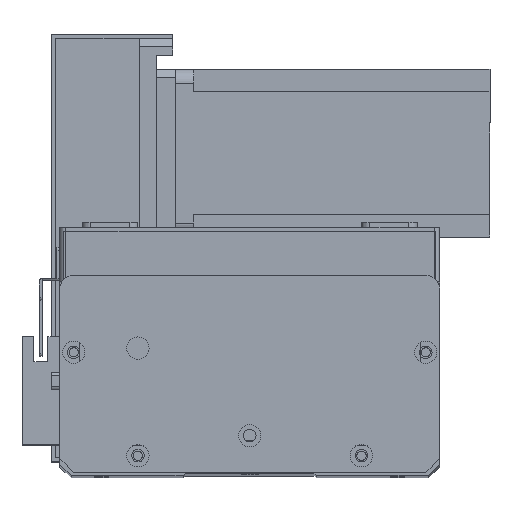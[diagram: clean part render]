
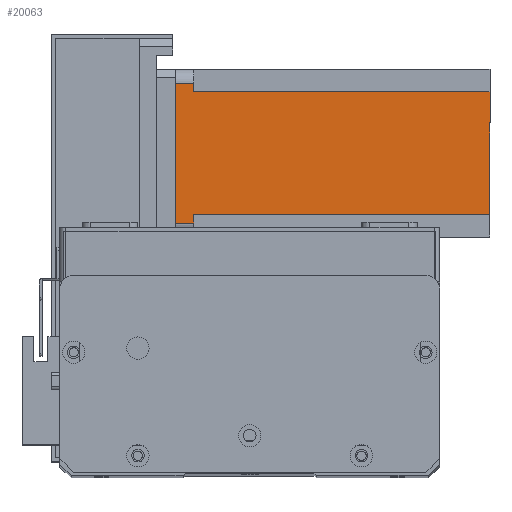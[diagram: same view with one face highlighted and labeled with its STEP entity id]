
A CAD part, top view. The second image highlights one B-rep face of the part: STEP entity #20063.
In plain terms, the highlighted planar face has unit normal (0, 0, 1) as drawn and (0, -1, 0) by its records, which use the part's own axes.
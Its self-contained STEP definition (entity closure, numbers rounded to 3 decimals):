
#48 = FACE_OUTER_BOUND ( 'NONE', #13002, .T. ) ;
#116 = CARTESIAN_POINT ( 'NONE',  ( 55., 0., -112.5 ) ) ;
#490 = LINE ( 'NONE', #22343, #6349 ) ;
#541 = DIRECTION ( 'NONE',  ( 0., -1., 0. ) ) ;
#567 = VERTEX_POINT ( 'NONE', #23219 ) ;
#1185 = ORIENTED_EDGE ( 'NONE', *, *, #20239, .F. ) ;
#1545 = EDGE_CURVE ( 'NONE', #4913, #11952, #2019, .T. ) ;
#1723 = LINE ( 'NONE', #116, #6899 ) ;
#1802 = ORIENTED_EDGE ( 'NONE', *, *, #13498, .F. ) ;
#1978 = CARTESIAN_POINT ( 'NONE',  ( 0., 0., -112.5 ) ) ;
#1998 = ORIENTED_EDGE ( 'NONE', *, *, #10717, .T. ) ;
#2019 = LINE ( 'NONE', #15850, #24791 ) ;
#2245 = VECTOR ( 'NONE', #21418, 1000. ) ;
#2947 = CARTESIAN_POINT ( 'NONE',  ( 52., 0., -112.5 ) ) ;
#2986 = VERTEX_POINT ( 'NONE', #2947 ) ;
#4057 = VERTEX_POINT ( 'NONE', #4293 ) ;
#4293 = CARTESIAN_POINT ( 'NONE',  ( 8., 0., -6.5 ) ) ;
#4655 = CARTESIAN_POINT ( 'NONE',  ( 55., 0., 0. ) ) ;
#4913 = VERTEX_POINT ( 'NONE', #20953 ) ;
#6349 = VECTOR ( 'NONE', #9097, 1000. ) ;
#6899 = VECTOR ( 'NONE', #17761, 1000. ) ;
#6937 = VECTOR ( 'NONE', #9940, 1000. ) ;
#7285 = VECTOR ( 'NONE', #15643, 1000. ) ;
#7424 = LINE ( 'NONE', #12491, #2245 ) ;
#7662 = CARTESIAN_POINT ( 'NONE',  ( 5., 0., -6.5 ) ) ;
#7741 = CARTESIAN_POINT ( 'NONE',  ( 8., 0., -6.5 ) ) ;
#9097 = DIRECTION ( 'NONE',  ( 0., 0., 1. ) ) ;
#9940 = DIRECTION ( 'NONE',  ( -1., 0., 0. ) ) ;
#10717 = EDGE_CURVE ( 'NONE', #24237, #26317, #1723, .T. ) ;
#11485 = PLANE ( 'NONE',  #26612 ) ;
#11952 = VERTEX_POINT ( 'NONE', #7662 ) ;
#12491 = CARTESIAN_POINT ( 'NONE',  ( 52., 0., -112.5 ) ) ;
#12750 = VERTEX_POINT ( 'NONE', #19194 ) ;
#12896 = CARTESIAN_POINT ( 'NONE',  ( 55., 0., -6.5 ) ) ;
#13002 = EDGE_LOOP ( 'NONE', ( #22783, #1998, #17155, #14369, #1185, #25245, #20721, #1802 ) ) ;
#13389 = CARTESIAN_POINT ( 'NONE',  ( 0., 0., 0. ) ) ;
#13498 = EDGE_CURVE ( 'NONE', #12750, #2986, #7424, .T. ) ;
#13681 = LINE ( 'NONE', #1978, #21001 ) ;
#14369 = ORIENTED_EDGE ( 'NONE', *, *, #1545, .T. ) ;
#15334 = EDGE_CURVE ( 'NONE', #567, #2986, #13681, .T. ) ;
#15625 = DIRECTION ( 'NONE',  ( 1., 0., 0. ) ) ;
#15643 = DIRECTION ( 'NONE',  ( 1., 0., 0. ) ) ;
#15850 = CARTESIAN_POINT ( 'NONE',  ( 5., 0., -112.5 ) ) ;
#15937 = DIRECTION ( 'NONE',  ( 0., 0., -1. ) ) ;
#15948 = DIRECTION ( 'NONE',  ( 0., 0., -1. ) ) ;
#16300 = VECTOR ( 'NONE', #15625, 1000. ) ;
#17155 = ORIENTED_EDGE ( 'NONE', *, *, #22143, .F. ) ;
#17761 = DIRECTION ( 'NONE',  ( 0., 0., 1. ) ) ;
#17895 = CARTESIAN_POINT ( 'NONE',  ( 52., 0., -6.5 ) ) ;
#18415 = EDGE_CURVE ( 'NONE', #567, #4057, #490, .T. ) ;
#19194 = CARTESIAN_POINT ( 'NONE',  ( 52., 0., -6.5 ) ) ;
#19635 = DIRECTION ( 'NONE',  ( 1., 0., 0. ) ) ;
#19970 = EDGE_CURVE ( 'NONE', #12750, #24237, #24880, .T. ) ;
#20063 = ADVANCED_FACE ( 'NONE', ( #48 ), #11485, .T. ) ;
#20239 = EDGE_CURVE ( 'NONE', #4057, #11952, #24518, .T. ) ;
#20721 = ORIENTED_EDGE ( 'NONE', *, *, #15334, .T. ) ;
#20953 = CARTESIAN_POINT ( 'NONE',  ( 5., 0., 0. ) ) ;
#21001 = VECTOR ( 'NONE', #19635, 1000. ) ;
#21418 = DIRECTION ( 'NONE',  ( 0., 0., -1. ) ) ;
#22143 = EDGE_CURVE ( 'NONE', #4913, #26317, #28066, .T. ) ;
#22343 = CARTESIAN_POINT ( 'NONE',  ( 8., 0., -112.5 ) ) ;
#22783 = ORIENTED_EDGE ( 'NONE', *, *, #19970, .T. ) ;
#23219 = CARTESIAN_POINT ( 'NONE',  ( 8., 0., -112.5 ) ) ;
#24237 = VERTEX_POINT ( 'NONE', #12896 ) ;
#24518 = LINE ( 'NONE', #7741, #6937 ) ;
#24727 = CARTESIAN_POINT ( 'NONE',  ( 0., 0., -112.5 ) ) ;
#24791 = VECTOR ( 'NONE', #15948, 1000. ) ;
#24880 = LINE ( 'NONE', #17895, #7285 ) ;
#25245 = ORIENTED_EDGE ( 'NONE', *, *, #18415, .F. ) ;
#26317 = VERTEX_POINT ( 'NONE', #4655 ) ;
#26612 = AXIS2_PLACEMENT_3D ( 'NONE', #24727, #541, #15937 ) ;
#28066 = LINE ( 'NONE', #13389, #16300 ) ;
